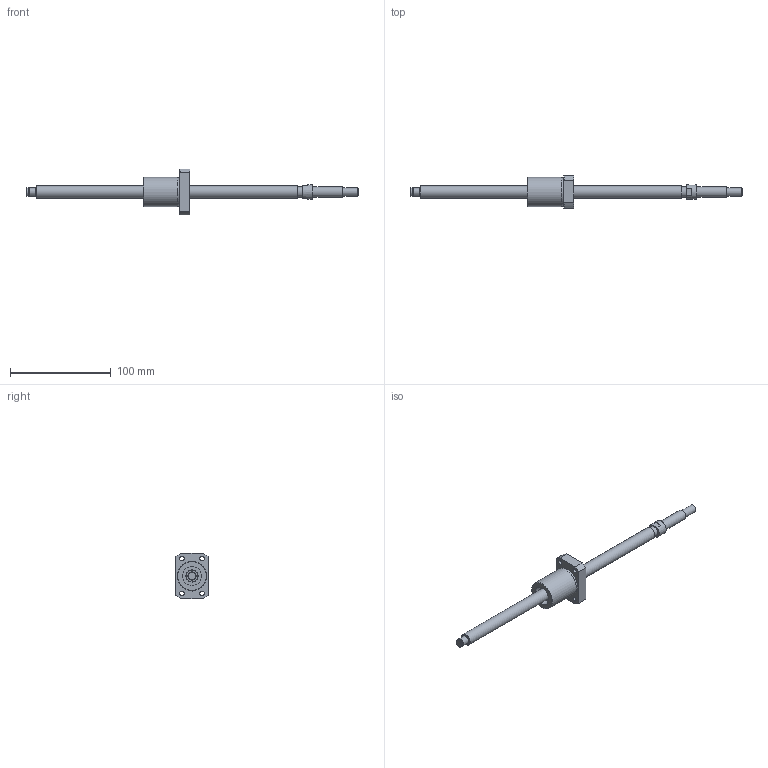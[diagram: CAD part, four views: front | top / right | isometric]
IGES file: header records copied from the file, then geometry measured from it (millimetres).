
Start section: Data from Parasolid IGES Translator 26.0.171, Copyright(c) 2006 Siemens PLM Software. All Rights Reserved.
Global section: file name: BNK1208-2.6RRG2+330LC7Y(1530).igs; native system: By Siemens PLM Incorporated; preprocessor: XPlus GENERIC/IGES 26.0.171; author: Noname; organization: Noname; date: 20240709.091109; units: millimetre
Bounding box: 330 x 32 x 45 mm (x, y, z)
Surface area: 22499.5 mm2 (no closed solid volume)
Topology: 0 solids, 0 shells, 76 faces, 321 edges, 275 vertices
Faces by surface type: revolution 47, extrusion 29
